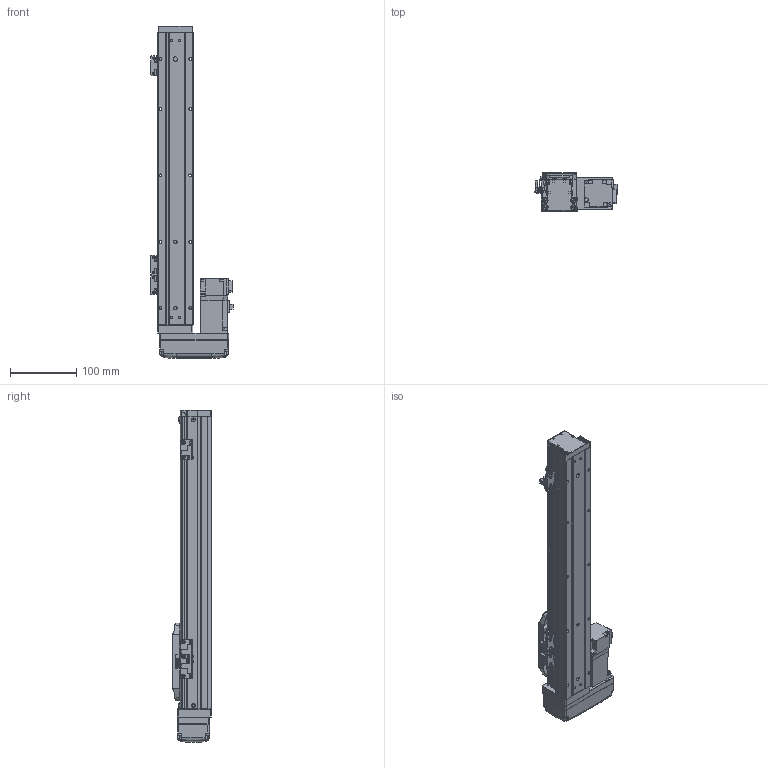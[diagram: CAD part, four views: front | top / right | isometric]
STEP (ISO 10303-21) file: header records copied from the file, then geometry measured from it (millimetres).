
FILE_DESCRIPTION (( 'STEP AP203' ), '1' );
FILE_NAME ('GTH5-300-BR-M10-C4.step', '2022-09-23T00:50:36', ( '微软用户' ), ( '微软中国' ), 'SwSTEP 2.0', 'SolidWorks 2020', '' );
FILE_SCHEMA (( 'CONFIG_CONTROL_DESIGN' ));
Length unit declared in the file: millimetre
Products named in the file (19): GTH50-004; GTH50-023; HG-KR13; GBT 70.3-M3℅6; GBT 70.1-M3℅6; GTH50-027-1_BTHA50-027-2; BTH-M3X5X6; GBT96.1-2002 3×0.8; GTH50-026; GTH50-001_300; GTH50-024; GTH5-300-BR-M10-C4; GBT 70.1-M4×16; GBT 70.1-M2.5×6; GTH50-003; GTH50-028; GTH50-006; GTH50-013; GTH50-022-1
Assembly tree (57 placements, depth 2):
  GTH5-300-BR-M10-C4
    GTH50-006
    GTH50-004
    GBT 70.3-M3℅6  x4
    BTH-M3X5X6  x8
    GTH50-001_300
    GBT 70.1-M4×16  x8
    GTH50-003
    GTH50-013
    GTH50-023  x3
    GBT 70.1-M3℅6  x12
    GBT96.1-2002 3×0.8  x6
    GTH50-024  x3
    GBT 70.1-M2.5×6  x2
    GTH50-028  x2
    GTH50-022-1
    HG-KR13
    GTH50-027-1_BTHA50-027-2
    GTH50-026
Bounding box: 123.6 x 60 x 500 mm (x, y, z)
Volume: 1203663.5 mm3; surface area: 231709.5 mm2
Topology: 59 solids, 59 shells, 2148 faces, 4980 edges, 3052 vertices
Faces by surface type: plane 1142, cylinder 577, cone 219, torus 162, bspline 40, sphere 8
Entity records: 39716 total; most frequent: CARTESIAN_POINT 7875, DIRECTION 6101, ORIENTED_EDGE 5874, EDGE_CURVE 2937, AXIS2_PLACEMENT_3D 2116, VECTOR 1869, LINE 1869, VERTEX_POINT 1854
